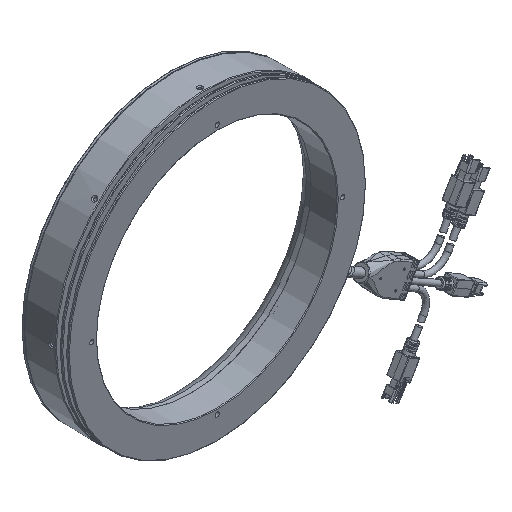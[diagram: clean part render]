
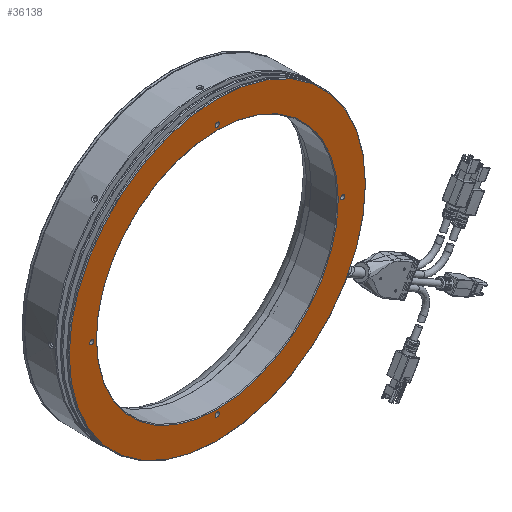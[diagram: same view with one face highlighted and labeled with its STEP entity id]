
A CAD part, isometric view. The second image highlights one B-rep face of the part: STEP entity #36138.
In plain terms, the highlighted planar face has unit normal (0, -1, 0).
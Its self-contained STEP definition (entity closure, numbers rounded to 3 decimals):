
#745 = CIRCLE ( 'NONE', #23993, 114.5 ) ;
#771 = ORIENTED_EDGE ( 'NONE', *, *, #14175, .T. ) ;
#1200 = ORIENTED_EDGE ( 'NONE', *, *, #34187, .T. ) ;
#1268 = CARTESIAN_POINT ( 'NONE',  ( -98.65, -5.402, 0. ) ) ;
#2303 = VERTEX_POINT ( 'NONE', #3672 ) ;
#3320 = EDGE_CURVE ( 'NONE', #33762, #33762, #18865, .T. ) ;
#3672 = CARTESIAN_POINT ( 'NONE',  ( -1.65, -5.402, 97. ) ) ;
#4189 = EDGE_LOOP ( 'NONE', ( #32584 ) ) ;
#4707 = DIRECTION ( 'NONE',  ( 0., -1., 0. ) ) ;
#4850 = CARTESIAN_POINT ( 'NONE',  ( -114.5, -5.402, 0. ) ) ;
#5039 = FACE_OUTER_BOUND ( 'NONE', #10779, .T. ) ;
#7138 = CARTESIAN_POINT ( 'NONE',  ( -93.5, -5.402, 0. ) ) ;
#7557 = EDGE_CURVE ( 'NONE', #30675, #30675, #16493, .T. ) ;
#9071 = EDGE_CURVE ( 'NONE', #40365, #40365, #30303, .T. ) ;
#9254 = VERTEX_POINT ( 'NONE', #19530 ) ;
#10779 = EDGE_LOOP ( 'NONE', ( #771 ) ) ;
#10824 = PLANE ( 'NONE',  #10842 ) ;
#10842 = AXIS2_PLACEMENT_3D ( 'NONE', #11534, #14807, #14961 ) ;
#11224 = AXIS2_PLACEMENT_3D ( 'NONE', #41507, #28308, #24983 ) ;
#11534 = CARTESIAN_POINT ( 'NONE',  ( 0., -5.402, -93. ) ) ;
#11770 = CARTESIAN_POINT ( 'NONE',  ( -97., -5.402, 0. ) ) ;
#12345 = DIRECTION ( 'NONE',  ( -1., 0., 0. ) ) ;
#14175 = EDGE_CURVE ( 'NONE', #37323, #37323, #745, .T. ) ;
#14204 = DIRECTION ( 'NONE',  ( 0., 1., 0. ) ) ;
#14807 = DIRECTION ( 'NONE',  ( 0., 1., 0. ) ) ;
#14961 = DIRECTION ( 'NONE',  ( -1., 0., 0. ) ) ;
#16178 = EDGE_LOOP ( 'NONE', ( #31729 ) ) ;
#16493 = CIRCLE ( 'NONE', #39808, 1.65 ) ;
#17136 = EDGE_LOOP ( 'NONE', ( #19785 ) ) ;
#17594 = CARTESIAN_POINT ( 'NONE',  ( 97., -5.402, 0. ) ) ;
#18185 = DIRECTION ( 'NONE',  ( -1., 0., 0. ) ) ;
#18865 = CIRCLE ( 'NONE', #40208, 1.65 ) ;
#19530 = CARTESIAN_POINT ( 'NONE',  ( 95.35, -5.402, 0. ) ) ;
#19584 = ORIENTED_EDGE ( 'NONE', *, *, #9071, .T. ) ;
#19785 = ORIENTED_EDGE ( 'NONE', *, *, #7557, .T. ) ;
#20014 = CARTESIAN_POINT ( 'NONE',  ( -1.65, -5.402, -97. ) ) ;
#21055 = CIRCLE ( 'NONE', #36957, 1.65 ) ;
#21531 = DIRECTION ( 'NONE',  ( 0., 1., 0. ) ) ;
#21950 = FACE_BOUND ( 'NONE', #29065, .T. ) ;
#23993 = AXIS2_PLACEMENT_3D ( 'NONE', #28034, #4707, #41240 ) ;
#24258 = CARTESIAN_POINT ( 'NONE',  ( 0., -5.402, -97. ) ) ;
#24983 = DIRECTION ( 'NONE',  ( -1., 0., 0. ) ) ;
#25426 = CARTESIAN_POINT ( 'NONE',  ( 0., -5.402, 97. ) ) ;
#25792 = DIRECTION ( 'NONE',  ( 0., 1., 0. ) ) ;
#25841 = DIRECTION ( 'NONE',  ( 0., 1., 0. ) ) ;
#28034 = CARTESIAN_POINT ( 'NONE',  ( 0., -5.402, 0. ) ) ;
#28308 = DIRECTION ( 'NONE',  ( 0., 1., 0. ) ) ;
#29065 = EDGE_LOOP ( 'NONE', ( #19584 ) ) ;
#29702 = DIRECTION ( 'NONE',  ( -1., 0., 0. ) ) ;
#30303 = CIRCLE ( 'NONE', #11224, 93.5 ) ;
#30422 = CIRCLE ( 'NONE', #36169, 1.65 ) ;
#30675 = VERTEX_POINT ( 'NONE', #1268 ) ;
#31729 = ORIENTED_EDGE ( 'NONE', *, *, #3320, .T. ) ;
#32584 = ORIENTED_EDGE ( 'NONE', *, *, #40636, .T. ) ;
#33257 = FACE_BOUND ( 'NONE', #39186, .T. ) ;
#33762 = VERTEX_POINT ( 'NONE', #20014 ) ;
#34057 = DIRECTION ( 'NONE',  ( -1., 0., 0. ) ) ;
#34187 = EDGE_CURVE ( 'NONE', #2303, #2303, #21055, .T. ) ;
#34740 = FACE_BOUND ( 'NONE', #16178, .T. ) ;
#36138 = ADVANCED_FACE ( 'NONE', ( #5039, #21950, #33257, #40391, #34740, #42434 ), #10824, .F. ) ;
#36169 = AXIS2_PLACEMENT_3D ( 'NONE', #17594, #14204, #34057 ) ;
#36957 = AXIS2_PLACEMENT_3D ( 'NONE', #25426, #25841, #12345 ) ;
#37323 = VERTEX_POINT ( 'NONE', #4850 ) ;
#39186 = EDGE_LOOP ( 'NONE', ( #1200 ) ) ;
#39808 = AXIS2_PLACEMENT_3D ( 'NONE', #11770, #21531, #18185 ) ;
#40208 = AXIS2_PLACEMENT_3D ( 'NONE', #24258, #25792, #29702 ) ;
#40365 = VERTEX_POINT ( 'NONE', #7138 ) ;
#40391 = FACE_BOUND ( 'NONE', #4189, .T. ) ;
#40636 = EDGE_CURVE ( 'NONE', #9254, #9254, #30422, .T. ) ;
#41240 = DIRECTION ( 'NONE',  ( -1., 0., 0. ) ) ;
#41507 = CARTESIAN_POINT ( 'NONE',  ( 0., -5.402, 0. ) ) ;
#42434 = FACE_BOUND ( 'NONE', #17136, .T. ) ;
